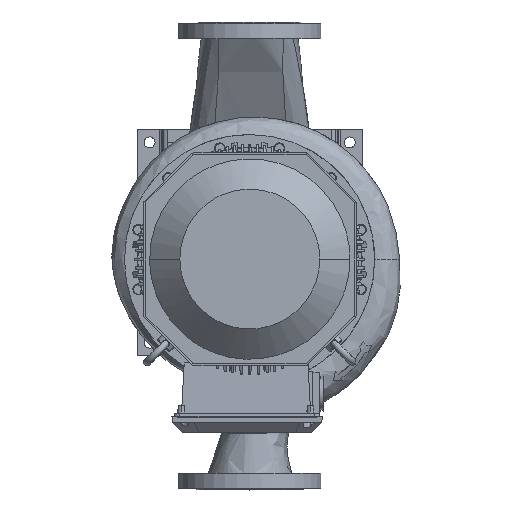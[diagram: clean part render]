
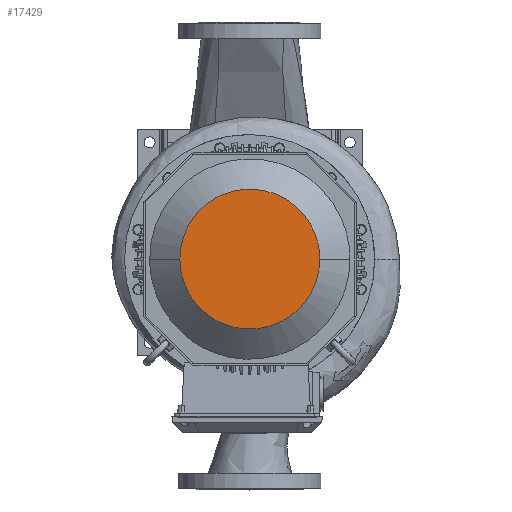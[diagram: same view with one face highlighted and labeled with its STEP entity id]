
A CAD part, top view. The second image highlights one B-rep face of the part: STEP entity #17429.
In plain terms, the highlighted free-form (B-spline) face has degree [1, 1] with [2, 2] control points.
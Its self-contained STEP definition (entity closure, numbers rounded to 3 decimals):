
#17429=ADVANCED_FACE('     F36',(#34356),#34357,.T.);
#17511=EDGE_CURVE('     E99',#34482,#34483,#34484,.T.);
#17515=EDGE_CURVE('     E99',#34483,#34482,#34488,.T.);
#34356=FACE_OUTER_BOUND('',#81923,.T.);
#34357=B_SPLINE_SURFACE_WITH_KNOTS('',1,1,((#81924,#81925),(#81926,#81927)),.UNSPECIFIED.,.F.,.F.,.F.,(2,2),(2,2),(0.044,0.955),(0.038,0.96),.UNSPECIFIED.);
#34482=VERTEX_POINT('',#82368);
#34483=VERTEX_POINT('',#82369);
#34484=(B_SPLINE_CURVE(2,(#82371,#82372,#82373,#82374,#82375),.UNSPECIFIED.,.F.,.F.)B_SPLINE_CURVE_WITH_KNOTS((3,2,3),(68.203,90.937,136.406),.UNSPECIFIED.)RATIONAL_B_SPLINE_CURVE((0.75,0.75,1.0,0.5,1.0))BOUNDED_CURVE()REPRESENTATION_ITEM('')GEOMETRIC_REPRESENTATION_ITEM()CURVE());
#34488=(B_SPLINE_CURVE(2,(#82389,#82390,#82391,#82392,#82393),.UNSPECIFIED.,.F.,.F.)B_SPLINE_CURVE_WITH_KNOTS((3,2,3),(0.0,45.469,68.203),.UNSPECIFIED.)RATIONAL_B_SPLINE_CURVE((1.0,0.5,1.0,0.75,0.75))BOUNDED_CURVE()REPRESENTATION_ITEM('')GEOMETRIC_REPRESENTATION_ITEM()CURVE());
#81923=EDGE_LOOP('',(#103679,#103680));
#81924=CARTESIAN_POINT('',(-344.319,136.863,-187.99));
#81925=CARTESIAN_POINT('',(-344.319,-143.766,-187.99));
#81926=CARTESIAN_POINT('',(-64.263,136.863,-187.99));
#81927=CARTESIAN_POINT('',(-64.263,-143.766,-187.99));
#82368=CARTESIAN_POINT('',(-343.849,-3.635,-187.99));
#82369=CARTESIAN_POINT('',(-64.273,-3.635,-187.99));
#82371=CARTESIAN_POINT('',(-343.849,-3.635,-187.99));
#82372=CARTESIAN_POINT('',(-343.849,-84.342,-187.99));
#82373=CARTESIAN_POINT('',(-273.955,-124.695,-187.99));
#82374=CARTESIAN_POINT('',(-64.273,-245.755,-187.99));
#82375=CARTESIAN_POINT('',(-64.273,-3.635,-187.99));
#82389=CARTESIAN_POINT('',(-64.273,-3.635,-187.99));
#82390=CARTESIAN_POINT('',(-64.273,238.485,-187.99));
#82391=CARTESIAN_POINT('',(-273.955,117.425,-187.99));
#82392=CARTESIAN_POINT('',(-343.849,77.072,-187.99));
#82393=CARTESIAN_POINT('',(-343.849,-3.635,-187.99));
#103679=ORIENTED_EDGE('',*,*,#17515,.F.);
#103680=ORIENTED_EDGE('',*,*,#17511,.F.);
